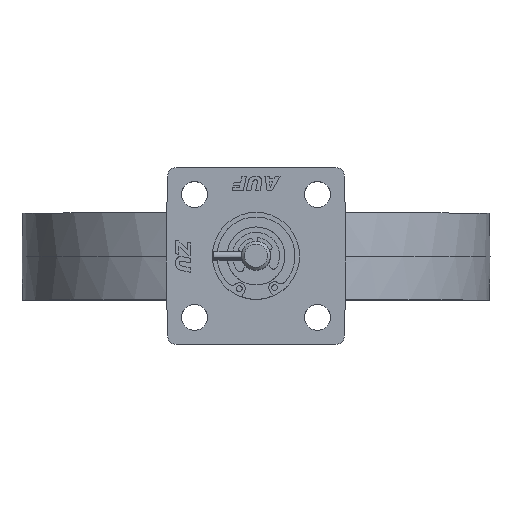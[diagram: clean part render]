
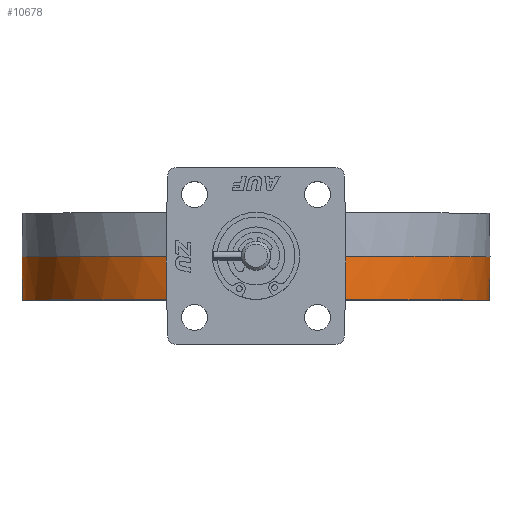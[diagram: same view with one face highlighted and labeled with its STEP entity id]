
A CAD part, top view. The second image highlights one B-rep face of the part: STEP entity #10678.
In plain terms, the highlighted conical face has half-angle 1 degrees and reference radius 80.5 mm.
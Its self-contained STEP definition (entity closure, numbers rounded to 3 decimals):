
#7129=CARTESIAN_POINT('',(26.697,0.,76.268));
#7130=VERTEX_POINT('',#7129);
#7204=CARTESIAN_POINT('',(-26.697,0.,76.268));
#7205=VERTEX_POINT('',#7204);
#7335=CARTESIAN_POINT('',(-26.694,-4.14,76.192));
#7336=VERTEX_POINT('',#7335);
#7356=CARTESIAN_POINT('',(-26.697,0.,76.268));
#7357=CARTESIAN_POINT('',(-26.696,-1.38,76.243));
#7358=CARTESIAN_POINT('',(-26.695,-2.76,76.218));
#7359=CARTESIAN_POINT('',(-26.694,-4.14,76.192));
#7360=B_SPLINE_CURVE_WITH_KNOTS('',3,(#7356,#7357,#7358,#7359),.UNSPECIFIED.,.F.,.U.,(4,4),(-2.733,-2.319),.UNSPECIFIED.);
#7361=EDGE_CURVE('',#7205,#7336,#7360,.T.);
#7751=CARTESIAN_POINT('',(26.694,-4.14,76.192));
#7752=VERTEX_POINT('',#7751);
#7771=CARTESIAN_POINT('',(26.694,-4.14,76.192));
#7772=CARTESIAN_POINT('',(26.695,-2.76,76.218));
#7773=CARTESIAN_POINT('',(26.696,-1.38,76.243));
#7774=CARTESIAN_POINT('',(26.697,0.,76.268));
#7775=B_SPLINE_CURVE_WITH_KNOTS('',3,(#7771,#7772,#7773,#7774),.UNSPECIFIED.,.F.,.U.,(4,4),(-1.414,-1.),.UNSPECIFIED.);
#7776=EDGE_CURVE('',#7752,#7130,#7775,.T.);
#9411=CARTESIAN_POINT('',(16.129,-15.,78.912));
#9412=VERTEX_POINT('',#9411);
#9424=CARTESIAN_POINT('',(16.129,-15.,78.912));
#9425=CARTESIAN_POINT('',(16.422,-14.88,78.855));
#9426=CARTESIAN_POINT('',(17.569,-14.359,78.623));
#9427=CARTESIAN_POINT('',(19.465,-13.162,78.201));
#9428=CARTESIAN_POINT('',(21.236,-11.559,77.761));
#9429=CARTESIAN_POINT('',(22.525,-10.137,77.42));
#9430=CARTESIAN_POINT('',(23.74,-8.633,77.086));
#9431=CARTESIAN_POINT('',(24.859,-7.033,76.761));
#9432=CARTESIAN_POINT('',(25.916,-5.391,76.439));
#9433=CARTESIAN_POINT('',(26.43,-4.565,76.277));
#9434=CARTESIAN_POINT('',(26.686,-4.153,76.195));
#9435=CARTESIAN_POINT('',(26.689,-4.149,76.194));
#9436=CARTESIAN_POINT('',(26.691,-4.144,76.193));
#9437=CARTESIAN_POINT('',(26.694,-4.14,76.192));
#9438=B_SPLINE_CURVE_WITH_KNOTS('',3,(#9424,#9425,#9426,#9427,#9428,#9429,#9430,#9431,#9432,#9433,#9434,#9435,#9436,#9437),.UNSPECIFIED.,.F.,.U.,(4,1,1,1,1,1,1,1,3,4),(-1.597,-1.496,-1.197,-0.898,-0.748,-0.599,-0.299,-0.15,0.,0.002),.UNSPECIFIED.);
#9439=EDGE_CURVE('',#9412,#7752,#9438,.T.);
#9804=CARTESIAN_POINT('',(0.0,0.,0.0));
#9805=DIRECTION('',(0.0,1.0,0.0));
#9806=DIRECTION('',(-1.0,0.0,0.0));
#9807=AXIS2_PLACEMENT_3D('',#9804,#9805,#9806);
#9808=CIRCLE('',#9807,80.805);
#9809=EDGE_CURVE('',#7130,#7205,#9808,.T.);
#10123=CARTESIAN_POINT('',(-16.129,-15.,78.912));
#10124=VERTEX_POINT('',#10123);
#10138=CARTESIAN_POINT('',(-26.694,-4.14,76.192));
#10139=CARTESIAN_POINT('',(-26.691,-4.144,76.193));
#10140=CARTESIAN_POINT('',(-26.689,-4.149,76.194));
#10141=CARTESIAN_POINT('',(-26.686,-4.153,76.195));
#10142=CARTESIAN_POINT('',(-26.175,-4.976,76.359));
#10143=CARTESIAN_POINT('',(-25.139,-6.633,76.68));
#10144=CARTESIAN_POINT('',(-23.46,-9.033,77.167));
#10145=CARTESIAN_POINT('',(-21.59,-11.239,77.673));
#10146=CARTESIAN_POINT('',(-19.819,-12.841,78.113));
#10147=CARTESIAN_POINT('',(-18.248,-13.932,78.472));
#10148=CARTESIAN_POINT('',(-17.139,-14.554,78.709));
#10149=CARTESIAN_POINT('',(-16.422,-14.88,78.855));
#10150=CARTESIAN_POINT('',(-16.129,-15.,78.912));
#10151=B_SPLINE_CURVE_WITH_KNOTS('',3,(#10138,#10139,#10140,#10141,#10142,#10143,#10144,#10145,#10146,#10147,#10148,#10149,#10150),.UNSPECIFIED.,.F.,.U.,(4,3,1,1,1,1,1,1,4),(-2.096,-2.095,-1.796,-1.496,-1.197,-0.898,-0.748,-0.599,-0.498),.UNSPECIFIED.);
#10152=EDGE_CURVE('',#7336,#10124,#10151,.T.);
#10659=CARTESIAN_POINT('',(0.0,-17.5,0.0));
#10660=DIRECTION('',(0.0,1.0,0.0));
#10661=DIRECTION('',(-1.0,0.0,0.0));
#10662=AXIS2_PLACEMENT_3D('',#10659,#10660,#10661);
#10663=CONICAL_SURFACE('',#10662,80.5,1.0);
#10664=ORIENTED_EDGE('',*,*,#9809,.F.);
#10665=ORIENTED_EDGE('',*,*,#7776,.F.);
#10666=ORIENTED_EDGE('',*,*,#9439,.F.);
#10667=CARTESIAN_POINT('',(0.0,-15.,0.0));
#10668=DIRECTION('',(0.0,1.0,0.0));
#10669=DIRECTION('',(-1.0,0.0,0.0));
#10670=AXIS2_PLACEMENT_3D('',#10667,#10668,#10669);
#10671=CIRCLE('',#10670,80.544);
#10672=EDGE_CURVE('',#9412,#10124,#10671,.T.);
#10673=ORIENTED_EDGE('',*,*,#10672,.T.);
#10674=ORIENTED_EDGE('',*,*,#10152,.F.);
#10675=ORIENTED_EDGE('',*,*,#7361,.F.);
#10676=EDGE_LOOP('',(#10664,#10665,#10666,#10673,#10674,#10675));
#10677=FACE_OUTER_BOUND('',#10676,.T.);
#10678=ADVANCED_FACE('',(#10677),#10663,.T.);
